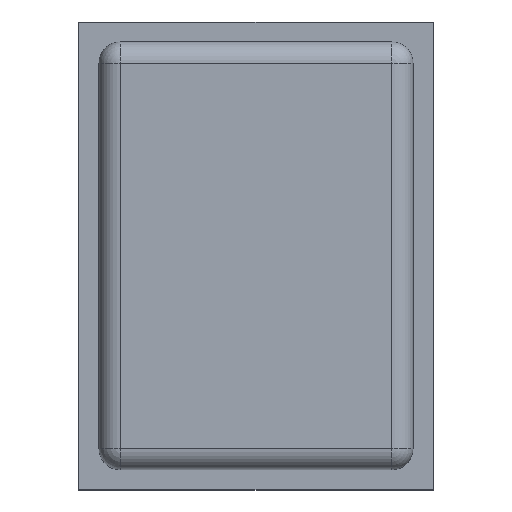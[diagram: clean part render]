
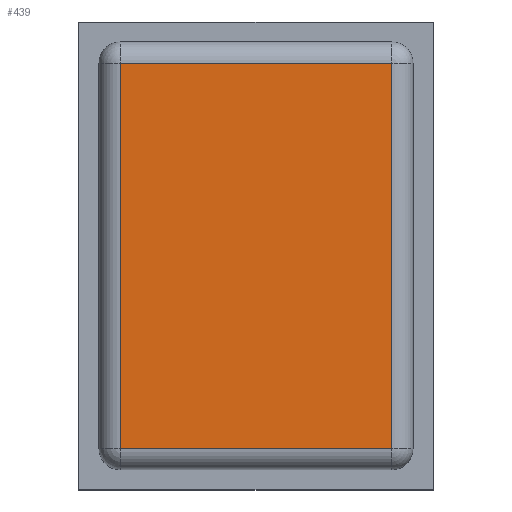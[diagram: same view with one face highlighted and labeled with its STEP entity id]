
A CAD part, top view. The second image highlights one B-rep face of the part: STEP entity #439.
In plain terms, the highlighted planar face has unit normal (0, 0, 1).
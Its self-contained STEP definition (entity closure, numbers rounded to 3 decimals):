
#286 = VERTEX_POINT('',#287);
#287 = CARTESIAN_POINT('',(-1.015,1.44,0.98));
#294 = EDGE_CURVE('',#286,#295,#297,.T.);
#295 = VERTEX_POINT('',#296);
#296 = CARTESIAN_POINT('',(-1.015,-1.44,0.98));
#297 = LINE('',#298,#299);
#298 = CARTESIAN_POINT('',(-1.015,1.44,0.98));
#299 = VECTOR('',#300,1.);
#300 = DIRECTION('',(0.,-1.,0.));
#439 = ADVANCED_FACE('',(#440),#465,.T.);
#440 = FACE_BOUND('',#441,.T.);
#441 = EDGE_LOOP('',(#442,#443,#451,#459));
#442 = ORIENTED_EDGE('',*,*,#294,.T.);
#443 = ORIENTED_EDGE('',*,*,#444,.T.);
#444 = EDGE_CURVE('',#295,#445,#447,.T.);
#445 = VERTEX_POINT('',#446);
#446 = CARTESIAN_POINT('',(1.015,-1.44,0.98));
#447 = LINE('',#448,#449);
#448 = CARTESIAN_POINT('',(-1.015,-1.44,0.98));
#449 = VECTOR('',#450,1.);
#450 = DIRECTION('',(1.,0.,0.));
#451 = ORIENTED_EDGE('',*,*,#452,.T.);
#452 = EDGE_CURVE('',#445,#453,#455,.T.);
#453 = VERTEX_POINT('',#454);
#454 = CARTESIAN_POINT('',(1.015,1.44,0.98));
#455 = LINE('',#456,#457);
#456 = CARTESIAN_POINT('',(1.015,-1.44,0.98));
#457 = VECTOR('',#458,1.);
#458 = DIRECTION('',(0.,1.,0.));
#459 = ORIENTED_EDGE('',*,*,#460,.T.);
#460 = EDGE_CURVE('',#453,#286,#461,.T.);
#461 = LINE('',#462,#463);
#462 = CARTESIAN_POINT('',(1.015,1.44,0.98));
#463 = VECTOR('',#464,1.);
#464 = DIRECTION('',(-1.,0.,0.));
#465 = PLANE('',#466);
#466 = AXIS2_PLACEMENT_3D('',#467,#468,#469);
#467 = CARTESIAN_POINT('',(0.,0.,0.98));
#468 = DIRECTION('',(0.,0.,1.));
#469 = DIRECTION('',(1.,0.,0.));
